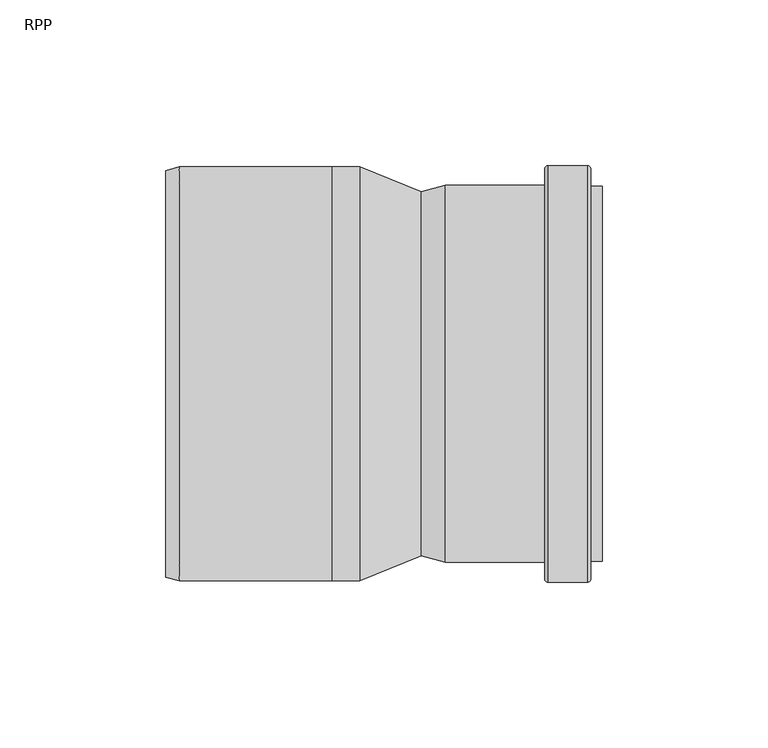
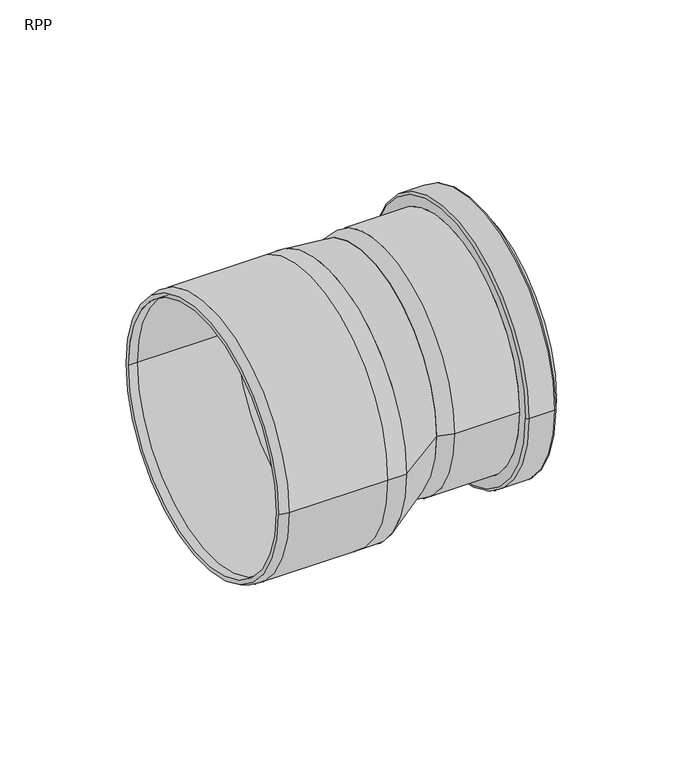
"""IFC4 building model written with IfcOpenShell, lengths in millimetres: pipe fitting geometry, RAUPIANO PLUS Reducer : RPP."""

from ifc_helpers import new_model, si_unit, point, frame, origin, place, context, project, spatial, polyline, circle_curve, ellipse_curve, trimmed, source, transform, mapped, element, save
from ifc_brep_helpers import plane_surface, cylinder_surface, revolved_surface, spline_surface, advanced_brep


def rpp_b8d76203(model_context):
    return source(origin(), model_context, "Body", "AdvancedBrep", [
        advanced_brep(
        [(46.5, 56.9292342, 7.5), (46.5, -56.9292342, 7.5), (16.5, -56.9292342, 7.5), (16.5, 56.9292342, 7.5), (64.0, 56.6076952, 7.5), (64.0, -56.6076952, 7.5), (60.4, -56.6076952, 7.5), (60.4, 56.6076952, 7.5), (60.4, 54.2292342, 7.5), (60.4, -54.2292342, 7.5), (64.0, -54.2292342, 7.5), (64.0, 54.2292342, 7.5), (16.5, 54.2292342, 7.5), (16.5, -54.2292342, 7.5), (9.3, 52.3, 7.5), (9.3, -52.3, 7.5), (9.3, -55.0, 7.5), (9.3, 55.0, 7.5), (47.5, 62.9292342, 7.5), (47.5, -62.9292342, 7.5), (46.5, -61.9292342, 7.5), (46.5, 61.9292342, 7.5), (59.4, 62.9292342, 7.5), (59.4, -62.9292342, 7.5), (60.4, 61.9292342, 7.5), (60.4, -61.9292342, 7.5)],
        [
            (0, 1, circle_curve(frame((46.5, 0.0, 7.5), z_axis=(-1.0, 0.0, 0.0), x_axis=(0.0, -1.0, 0.0)), 56.9292342)),
            (1, 2),
            (2, 3, circle_curve(frame((16.5, 0.0, 7.5), z_axis=(1.0, 0.0, 0.0), x_axis=(0.0, -1.0, 0.0)), 56.9292342)),
            (3, 0),
            (4, 5, circle_curve(frame((64.0, 0.0, 7.5), z_axis=(-1.0, 0.0, 0.0), x_axis=(0.0, -1.0, 0.0)), 56.6076952)),
            (5, 6),
            (6, 7, circle_curve(frame((60.4, 0.0, 7.5), z_axis=(1.0, 0.0, 0.0), x_axis=(0.0, -1.0, 0.0)), 56.6076952)),
            (7, 4),
            (8, 9, circle_curve(frame((60.4, 0.0, 7.5), z_axis=(-1.0, 0.0, 0.0), x_axis=(0.0, -1.0, 0.0)), 54.2292342)),
            (9, 10),
            (10, 11, circle_curve(frame((64.0, 0.0, 7.5), z_axis=(1.0, 0.0, 0.0), x_axis=(0.0, -1.0, 0.0)), 54.2292342)),
            (11, 8),
            (12, 13, circle_curve(frame((16.5, 0.0, 7.5), z_axis=(-1.0, 0.0, 0.0), x_axis=(0.0, -1.0, 0.0)), 54.2292342)),
            (13, 9),
            (8, 12),
            (14, 15, circle_curve(frame((9.3, 0.0, 7.5), z_axis=(-1.0, 0.0, 0.0), x_axis=(0.0, -1.0, 0.0)), 52.3)),
            (15, 13),
            (12, 14),
            (2, 16),
            (16, 17, circle_curve(frame((9.3, 0.0, 7.5), z_axis=(1.0, 0.0, 0.0), x_axis=(0.0, -1.0, 0.0)), 55.0)),
            (17, 3),
            (1, 0, circle_curve(frame((46.5, 0.0, 7.5), z_axis=(-1.0, 0.0, 0.0), x_axis=(0.0, 1.0, 0.0)), 56.9292342)),
            (3, 2, circle_curve(frame((16.5, 0.0, 7.5), z_axis=(1.0, 0.0, 0.0), x_axis=(0.0, 1.0, 0.0)), 56.9292342)),
            (5, 4, circle_curve(frame((64.0, 0.0, 7.5), z_axis=(-1.0, 0.0, 0.0), x_axis=(0.0, 1.0, 0.0)), 56.6076952)),
            (7, 6, circle_curve(frame((60.4, 0.0, 7.5), z_axis=(1.0, 0.0, 0.0), x_axis=(0.0, 1.0, 0.0)), 56.6076952)),
            (10, 11, circle_curve(frame((64.0, 0.0, 7.5), z_axis=(-1.0, 0.0, 0.0), x_axis=(0.0, 1.0, 0.0)), 54.2292342)),
            (9, 8, circle_curve(frame((60.4, 0.0, 7.5), z_axis=(-1.0, 0.0, 0.0), x_axis=(0.0, 1.0, 0.0)), 54.2292342)),
            (13, 12, circle_curve(frame((16.5, 0.0, 7.5), z_axis=(-1.0, 0.0, 0.0), x_axis=(0.0, 1.0, 0.0)), 54.2292342)),
            (15, 14, circle_curve(frame((9.3, 0.0, 7.5), z_axis=(-1.0, 0.0, 0.0), x_axis=(0.0, 1.0, 0.0)), 52.3)),
            (17, 16, circle_curve(frame((9.3, 0.0, 7.5), z_axis=(1.0, 0.0, 0.0), x_axis=(0.0, 1.0, 0.0)), 55.0)),
            (18, 19, circle_curve(frame((47.5, 0.0, 7.5), z_axis=(-1.0, 0.0, 0.0), x_axis=(0.0, -1.0, 0.0)), 62.9292342)),
            (19, 20, circle_curve(frame((47.5, -61.9292342, 7.5), z_axis=(0.0, 0.0, -1.0), x_axis=(1.0, 0.0, 0.0)), 1.0)),
            (20, 21, circle_curve(frame((46.5, 0.0, 7.5), z_axis=(1.0, 0.0, 0.0), x_axis=(0.0, -1.0, 0.0)), 61.9292342)),
            (21, 18, circle_curve(frame((47.5, 61.9292342, 7.5), z_axis=(0.0, 0.0, -1.0), x_axis=(1.0, 0.0, 0.0)), 1.0)),
            (22, 23, circle_curve(frame((59.4, 0.0, 7.5), z_axis=(-1.0, 0.0, 0.0), x_axis=(0.0, -1.0, 0.0)), 62.9292342)),
            (23, 19),
            (18, 22),
            (24, 25, circle_curve(frame((60.4, 0.0, 7.5), z_axis=(-1.0, 0.0, 0.0), x_axis=(0.0, -1.0, 0.0)), 61.9292342)),
            (25, 23, circle_curve(frame((59.4, -61.9292342, 7.5), z_axis=(0.0, 0.0, -1.0), x_axis=(1.0, 0.0, 0.0)), 1.0)),
            (22, 24, circle_curve(frame((59.4, 61.9292342, 7.5), z_axis=(0.0, 0.0, -1.0), x_axis=(1.0, 0.0, 0.0)), 1.0)),
            (20, 21, circle_curve(frame((46.5, 0.0, 7.5), z_axis=(-1.0, 0.0, 0.0), x_axis=(0.0, 1.0, 0.0)), 61.9292342)),
            (19, 18, circle_curve(frame((47.5, 0.0, 7.5), z_axis=(-1.0, 0.0, 0.0), x_axis=(0.0, 1.0, 0.0)), 62.9292342)),
            (23, 22, circle_curve(frame((59.4, 0.0, 7.5), z_axis=(-1.0, 0.0, 0.0), x_axis=(0.0, 1.0, 0.0)), 62.9292342)),
            (25, 24, circle_curve(frame((60.4, 0.0, 7.5), z_axis=(-1.0, 0.0, 0.0), x_axis=(0.0, 1.0, 0.0)), 61.9292342)),
        ],
        [
            cylinder_surface(frame((0.0, 0.0, 7.5), z_axis=(1.0, 0.0, 0.0), x_axis=(0.0, -1.0, 0.0)), 56.9292342),
            cylinder_surface(frame((0.0, 0.0, 7.5), z_axis=(1.0, 0.0, 0.0), x_axis=(0.0, -1.0, 0.0)), 56.6076952),
            revolved_surface(polyline([(64.0, -54.2292342, 7.5), (60.4, -54.2292342, 7.5)]), (0.0, 0.0, 7.5), (1.0, 0.0, 0.0)),
            revolved_surface(polyline([(60.4, -54.2292342, 7.5), (16.5, -54.2292342, 7.5)]), (0.0, 0.0, 7.5), (1.0, 0.0, 0.0)),
            revolved_surface(polyline([(16.5, -54.2292342, 7.5), (9.3, -52.3, 7.5)]), (0.0, 0.0, 7.5), (1.0, 0.0, 0.0)),
            revolved_surface(polyline([(9.3, -55.0, 7.5), (16.5, -56.9292342, 7.5)]), (0.0, 0.0, 7.5), (1.0, 0.0, 0.0)),
            cylinder_surface(frame((0.0, 0.0, 7.5), z_axis=(1.0, 0.0, 0.0), x_axis=(0.0, 1.0, 0.0)), 56.9292342),
            cylinder_surface(frame((0.0, 0.0, 7.5), z_axis=(1.0, 0.0, 0.0), x_axis=(0.0, 1.0, 0.0)), 56.6076952),
            plane_surface(frame((64.0, 0.0, 7.5), z_axis=(1.0, 0.0, 0.0), x_axis=(0.0, 1.0, 0.0))),
            revolved_surface(polyline([(64.0, 54.2292342, 7.5), (60.4, 54.2292342, 7.5)]), (0.0, 0.0, 7.5), (1.0, 0.0, 0.0)),
            revolved_surface(polyline([(60.4, 54.2292342, 7.5), (16.5, 54.2292342, 7.5)]), (0.0, 0.0, 7.5), (1.0, 0.0, 0.0)),
            revolved_surface(polyline([(16.5, 54.2292342, 7.5), (9.3, 52.3, 7.5)]), (0.0, 0.0, 7.5), (1.0, 0.0, 0.0)),
            revolved_surface(polyline([(9.3, 55.0, 7.5), (16.5, 56.9292342, 7.5)]), (0.0, 0.0, 7.5), (1.0, 0.0, 0.0)),
            revolved_surface(trimmed(ellipse_curve(frame((47.5, -61.9292342, 7.5), z_axis=(0.0, 0.0, 1.0), x_axis=(1.0, 0.0, 0.0)), 1.0, 1.0), [point((46.5, -61.9292342, 7.5))], [point((47.5, -62.9292342, 7.5))], True, "CARTESIAN"), (0.0, 0.0, 7.5), (1.0, 0.0, 0.0)),
            cylinder_surface(frame((0.0, 0.0, 7.5), z_axis=(1.0, 0.0, 0.0), x_axis=(0.0, -1.0, 0.0)), 62.9292342),
            revolved_surface(trimmed(ellipse_curve(frame((59.4, -61.9292342, 7.5), z_axis=(0.0, 0.0, 1.0), x_axis=(1.0, 0.0, 0.0)), 1.0, 1.0), [point((59.4, -62.9292342, 7.5))], [point((60.4, -61.9292342, 7.5))], True, "CARTESIAN"), (0.0, 0.0, 7.5), (1.0, 0.0, 0.0)),
            plane_surface(frame((46.5, 0.0, 7.5), z_axis=(-1.0, 0.0, 0.0), x_axis=(0.0, 1.0, 0.0))),
            revolved_surface(trimmed(ellipse_curve(frame((47.5, 61.9292342, 7.5), z_axis=(0.0, 0.0, -1.0), x_axis=(1.0, 0.0, 0.0)), 1.0, 1.0), [point((46.5, 61.9292342, 7.5))], [point((47.5, 62.9292342, 7.5))], True, "CARTESIAN"), (0.0, 0.0, 7.5), (1.0, 0.0, 0.0)),
            cylinder_surface(frame((0.0, 0.0, 7.5), z_axis=(1.0, 0.0, 0.0), x_axis=(0.0, 1.0, 0.0)), 62.9292342),
            revolved_surface(trimmed(ellipse_curve(frame((59.4, 61.9292342, 7.5), z_axis=(0.0, 0.0, -1.0), x_axis=(1.0, 0.0, 0.0)), 1.0, 1.0), [point((59.4, 62.9292342, 7.5))], [point((60.4, 61.9292342, 7.5))], True, "CARTESIAN"), (0.0, 0.0, 7.5), (1.0, 0.0, 0.0)),
            plane_surface(frame((60.4, 0.0, 7.5), z_axis=(1.0, 0.0, 0.0), x_axis=(0.0, 1.0, 0.0))),
            plane_surface(frame((9.3, 0.0, 7.5), z_axis=(-1.0, 0.0, 0.0), x_axis=(0.0, 1.0, 0.0))),
        ],
        [
            (0, [[1, 2, 3, 4]]),
            (1, [[5, 6, 7, 8]]),
            (2, [[9, 10, 11, 12]]),
            (3, [[13, 14, -9, 15]]),
            (4, [[16, 17, -13, 18]]),
            (5, [[-3, 19, 20, 21]]),
            (6, [[22, -4, 23, -2]]),
            (7, [[24, -8, 25, -6]]),
            (8, [[-24, -5], [26, -11]]),
            (9, [[27, -12, -26, -10]]),
            (10, [[28, -15, -27, -14]]),
            (11, [[29, -18, -28, -17]]),
            (12, [[-23, -21, 30, -19]]),
            (13, [[31, 32, 33, 34]]),
            (14, [[35, 36, -31, 37]]),
            (15, [[38, 39, -35, 40]]),
            (16, [[41, -33], [-22, -1]]),
            (17, [[42, -34, -41, -32]]),
            (18, [[43, -37, -42, -36]]),
            (19, [[44, -40, -43, -39]]),
            (20, [[-44, -38], [-25, -7]]),
            (21, [[-30, -20], [-29, -16]]),
        ],
    ),
        advanced_brep(
        [(-9.3, 62.5, 0.0), (-9.3, -62.5, 0.0), (-17.7, -62.5, 0.0), (-17.7, 62.5, 0.0), (-17.7, 59.4, 0.0), (-17.7, -59.4, 0.0), (-9.3, -59.4, 0.0), (-9.3, 59.4, 0.0), (-63.8, 59.4, 0.0), (-63.8, -59.4, 0.0), (-68.0, 59.4, 0.0), (-68.0, -59.4, 0.0), (-63.8, 62.5, 0.0), (-63.8, -62.5, 0.0), (-68.0, -61.3746134, 0.0), (-68.0, 61.3746134, 0.0)],
        [
            (0, 1, circle_curve(frame((-9.3, 0.0, 0.0), z_axis=(-1.0, 0.0, 0.0), x_axis=(0.0, -1.0, 0.0)), 62.5)),
            (1, 2),
            (2, 3, circle_curve(frame((-17.7, 0.0, 0.0), z_axis=(1.0, 0.0, 0.0), x_axis=(0.0, -1.0, 0.0)), 62.5)),
            (3, 0),
            (4, 5, circle_curve(frame((-17.7, 0.0, 0.0), z_axis=(-1.0, 0.0, 0.0), x_axis=(0.0, -1.0, 0.0)), 59.4)),
            (5, 6),
            (6, 7, circle_curve(frame((-9.3, 0.0, 0.0), z_axis=(1.0, 0.0, 0.0), x_axis=(0.0, -1.0, 0.0)), 59.4)),
            (7, 4),
            (8, 9, circle_curve(frame((-63.8, 0.0, 0.0), z_axis=(-1.0, 0.0, 0.0), x_axis=(0.0, -1.0, 0.0)), 59.4)),
            (9, 5),
            (4, 8),
            (10, 11, circle_curve(frame((-68.0, 0.0, 0.0), z_axis=(-1.0, 0.0, 0.0), x_axis=(0.0, -1.0, 0.0)), 59.4)),
            (11, 9),
            (8, 10),
            (12, 13, circle_curve(frame((-63.8, 0.0, 0.0), z_axis=(-1.0, 0.0, 0.0), x_axis=(0.0, -1.0, 0.0)), 62.5)),
            (13, 14),
            (14, 15, circle_curve(frame((-68.0, 0.0, 0.0), z_axis=(1.0, 0.0, 0.0), x_axis=(0.0, -1.0, 0.0)), 61.3746134)),
            (15, 12),
            (2, 13),
            (12, 3),
            (1, 0, circle_curve(frame((-9.3, 0.0, 0.0), z_axis=(-1.0, 0.0, 0.0), x_axis=(0.0, 1.0, 0.0)), 62.5)),
            (3, 2, circle_curve(frame((-17.7, 0.0, 0.0), z_axis=(1.0, 0.0, 0.0), x_axis=(0.0, 1.0, 0.0)), 62.5)),
            (6, 7, circle_curve(frame((-9.3, 0.0, 0.0), z_axis=(-1.0, 0.0, 0.0), x_axis=(0.0, 1.0, 0.0)), 59.4)),
            (5, 4, circle_curve(frame((-17.7, 0.0, 0.0), z_axis=(-1.0, 0.0, 0.0), x_axis=(0.0, 1.0, 0.0)), 59.4)),
            (9, 8, circle_curve(frame((-63.8, 0.0, 0.0), z_axis=(-1.0, 0.0, 0.0), x_axis=(0.0, 1.0, 0.0)), 59.4)),
            (11, 10, circle_curve(frame((-68.0, 0.0, 0.0), z_axis=(-1.0, 0.0, 0.0), x_axis=(0.0, 1.0, 0.0)), 59.4)),
            (14, 15, circle_curve(frame((-68.0, 0.0, 0.0), z_axis=(-1.0, 0.0, 0.0), x_axis=(0.0, 1.0, 0.0)), 61.3746134)),
            (13, 12, circle_curve(frame((-63.8, 0.0, 0.0), z_axis=(-1.0, 0.0, 0.0), x_axis=(0.0, 1.0, 0.0)), 62.5)),
        ],
        [
            cylinder_surface(frame((0.0, 0.0, 0.0), z_axis=(1.0, 0.0, 0.0), x_axis=(0.0, -1.0, 0.0)), 62.5),
            revolved_surface(polyline([(-9.3, -59.4, 0.0), (-17.7, -59.4, 0.0)]), (0.0, 0.0, 0.0), (1.0, 0.0, 0.0)),
            revolved_surface(polyline([(-17.7, -59.4, 0.0), (-63.8, -59.4, 0.0)]), (0.0, 0.0, 0.0), (1.0, 0.0, 0.0)),
            revolved_surface(polyline([(-63.8, -59.4, 0.0), (-68.0, -59.4, 0.0)]), (0.0, 0.0, 0.0), (1.0, 0.0, 0.0)),
            revolved_surface(polyline([(-68.0, -61.3746134, 0.0), (-63.8, -62.5, 0.0)]), (0.0, 0.0, 0.0), (1.0, 0.0, 0.0)),
            cylinder_surface(frame((0.0, 0.0, 0.0), z_axis=(1.0, 0.0, 0.0), x_axis=(0.0, 1.0, 0.0)), 62.5),
            plane_surface(frame((-9.3, 0.0, 0.0), z_axis=(1.0, 0.0, 0.0), x_axis=(0.0, 1.0, 0.0))),
            revolved_surface(polyline([(-9.3, 59.4, 0.0), (-17.7, 59.4, 0.0)]), (0.0, 0.0, 0.0), (1.0, 0.0, 0.0)),
            revolved_surface(polyline([(-17.7, 59.4, 0.0), (-63.8, 59.4, 0.0)]), (0.0, 0.0, 0.0), (1.0, 0.0, 0.0)),
            revolved_surface(polyline([(-63.8, 59.4, 0.0), (-68.0, 59.4, 0.0)]), (0.0, 0.0, 0.0), (1.0, 0.0, 0.0)),
            plane_surface(frame((-68.0, 0.0, 0.0), z_axis=(-1.0, 0.0, 0.0), x_axis=(0.0, 1.0, 0.0))),
            revolved_surface(polyline([(-68.0, 61.3746134, 0.0), (-63.8, 62.5, 0.0)]), (0.0, 0.0, 0.0), (1.0, 0.0, 0.0)),
        ],
        [
            (0, [[1, 2, 3, 4]]),
            (1, [[5, 6, 7, 8]]),
            (2, [[9, 10, -5, 11]]),
            (3, [[12, 13, -9, 14]]),
            (4, [[15, 16, 17, 18]]),
            (0, [[-3, 19, -15, 20]]),
            (5, [[21, -4, 22, -2]]),
            (6, [[-21, -1], [23, -7]]),
            (7, [[24, -8, -23, -6]]),
            (8, [[25, -11, -24, -10]]),
            (9, [[26, -14, -25, -13]]),
            (10, [[27, -17], [-26, -12]]),
            (11, [[28, -18, -27, -16]]),
            (5, [[-22, -20, -28, -19]]),
        ],
    ),
        advanced_brep(
        [(9.3, -55.0, 7.5), (9.3, 55.0, 7.5), (-9.3, -62.5, 0.0), (-9.3, 62.5, 0.0)],
        [
            (0, 1, circle_curve(frame((9.3, 0.0, 7.5), z_axis=(1.0, 0.0, 0.0), x_axis=(0.0, 1.0, 0.0)), 55.0)),
            (1, 0, circle_curve(frame((9.3, 0.0, 7.5), z_axis=(1.0, 0.0, 0.0), x_axis=(0.0, 1.0, 0.0)), 55.0)),
            (2, 3, circle_curve(frame((-9.3, 0.0, 0.0), z_axis=(-1.0, 0.0, 0.0), x_axis=(0.0, 1.0, 0.0)), 62.5)),
            (3, 2, circle_curve(frame((-9.3, 0.0, 0.0), z_axis=(-1.0, 0.0, 0.0), x_axis=(0.0, 1.0, 0.0)), 62.5)),
            (3, 1),
            (0, 2),
        ],
        [
            plane_surface(frame((9.3, 0.0, 7.5), z_axis=(1.0, 0.0, 0.0), x_axis=(0.0, 0.0, -1.0))),
            plane_surface(frame((-9.3, 0.0, 0.0), z_axis=(-1.0, 0.0, 0.0), x_axis=(0.0, 0.0, -1.0))),
            spline_surface(2, 1, [[(-9.3, -62.5, 0.0), (9.3, -55.0, 7.5)], [(-9.3, -62.5, -62.5), (9.3, -55.0, -47.5)], [(-9.3, 0.0, -62.5), (9.3, 0.0, -47.5)], [(-9.3, 62.5, -62.5), (9.3, 55.0, -47.5)], [(-9.3, 62.5, 0.0), (9.3, 55.0, 7.5)]], [3, 2, 3], [2, 2], [0.0, 1.0, 2.0], [0.0, 1.0], weights=[[1.0, 1.0], [0.7071067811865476, 0.7071067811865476], [1.0, 1.0], [0.7071067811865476, 0.7071067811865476], [1.0, 1.0]]),
            spline_surface(2, 1, [[(-9.3, 62.5, 0.0), (9.3, 55.0, 7.5)], [(-9.3, 62.5, 62.5), (9.3, 55.0, 62.5)], [(-9.3, 0.0, 62.5), (9.3, 0.0, 62.5)], [(-9.3, -62.5, 62.5), (9.3, -55.0, 62.5)], [(-9.3, -62.5, 0.0), (9.3, -55.0, 7.5)]], [3, 2, 3], [2, 2], [0.0, 1.0, 2.0], [0.0, 1.0], weights=[[1.0, 1.0], [0.7071067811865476, 0.7071067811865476], [1.0, 1.0], [0.7071067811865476, 0.7071067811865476], [1.0, 1.0]]),
        ],
        [
            (0, [[1, 2]]),
            (1, [[3, 4]]),
            (2, [[-4, 5, -1, 6]]),
            (3, [[-3, -6, -2, -5]]),
        ],
    ),
    ])


if __name__ == "__main__":
    model = new_model("IFC4")
    model_context = context("Model", 3, world=origin())
    ifc_project = project(units=[si_unit("LENGTHUNIT", "METRE", prefix="MILLI")], contexts=[model_context])
    site = spatial("IfcSite", under=ifc_project)
    building = spatial("IfcBuilding", under=site)
    placement = place(None, origin())
    rpp_shape = rpp_b8d76203(model_context)
    element("IfcPipeFitting", 1, ObjectType="RAUPIANO PLUS Reducer : RPP", at=placement, inside=building, context=model_context, shape_type="MappedRepresentation", body=[
        mapped(rpp_shape, transform((0.0, 0.0, 0.0), x_axis=(1.0, 0.0, 0.0), y_axis=(0.0, 1.0, 0.0), z_axis=(0.0, 0.0, 1.0))),
    ])
    save(model, "model.ifc")
